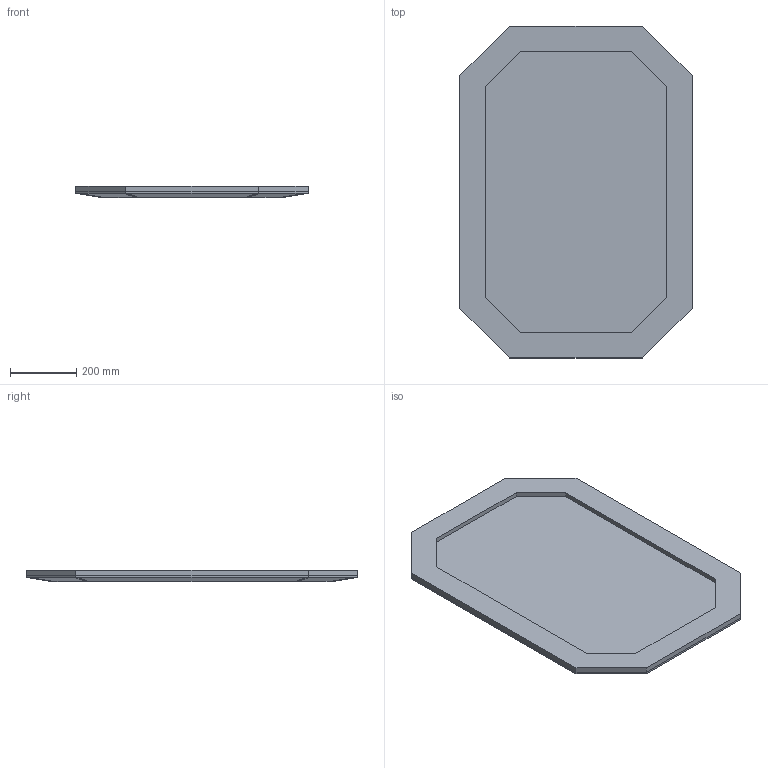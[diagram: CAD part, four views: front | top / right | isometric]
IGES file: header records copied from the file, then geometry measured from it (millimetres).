
Start section: SolidWorks IGES file using analytic representation for surfaces
Global section: file name: C:\Users\Professional\Desktop\Íîâàÿ ïàïêà\089_2 âîñüìèãðàííèê ìäô 1000õ700 - Âàðèàíò 2.IGS; native system: SolidWorks 2023; preprocessor: SolidWorks 2023; author: Professional; date: 240403.183004; units: millimetre
Bounding box: 700 x 1000 x 36.08 mm (x, y, z)
Volume: 7783564.2 mm3; surface area: 2078351.7 mm2
Topology: 20 solids, 20 shells, 236 faces, 488 edges, 288 vertices
Faces by surface type: plane 236
